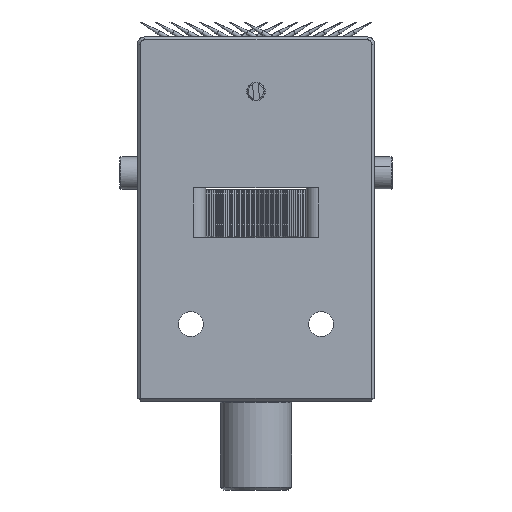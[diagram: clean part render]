
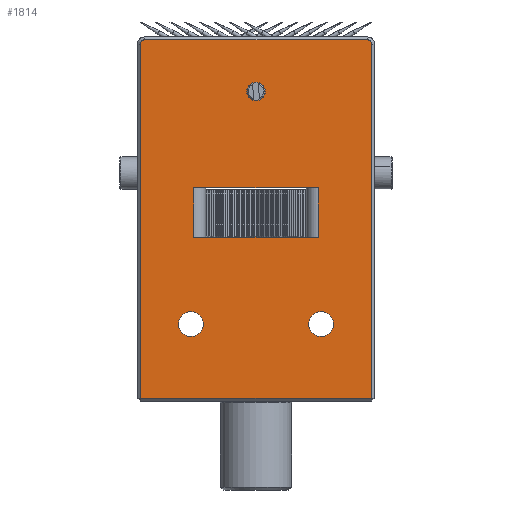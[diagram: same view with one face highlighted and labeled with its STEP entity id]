
A CAD part, front view. The second image highlights one B-rep face of the part: STEP entity #1814.
In plain terms, the highlighted planar face has unit normal (0, -1, 0).
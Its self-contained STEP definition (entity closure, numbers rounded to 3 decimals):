
#995=PLANE('',#14724);
#1210=FACE_BOUND('',#3540,.T.);
#1211=FACE_BOUND('',#3541,.T.);
#1212=FACE_BOUND('',#3542,.T.);
#1213=FACE_BOUND('',#3543,.T.);
#1214=FACE_BOUND('',#3544,.T.);
#1814=ADVANCED_FACE('',(#1210,#1211,#1212,#1213,#1214),#995,.T.);
#3540=EDGE_LOOP('',(#8626,#8627,#8628,#8629,#8630,#8631));
#3541=EDGE_LOOP('',(#8632,#8633));
#3542=EDGE_LOOP('',(#8634,#8635,#8636,#8637));
#3543=EDGE_LOOP('',(#8638,#8639));
#3544=EDGE_LOOP('',(#8640,#8641));
#5018=LINE('',#23667,#5971);
#5105=LINE('',#23949,#6058);
#5106=LINE('',#23952,#6059);
#5107=LINE('',#23956,#6060);
#5108=LINE('',#23960,#6061);
#5109=LINE('',#23962,#6062);
#5110=LINE('',#23964,#6063);
#5111=LINE('',#23966,#6064);
#5971=VECTOR('',#16623,1.);
#6058=VECTOR('',#16836,1.);
#6059=VECTOR('',#16837,1.);
#6060=VECTOR('',#16840,1.);
#6061=VECTOR('',#16843,1.);
#6062=VECTOR('',#16846,1.);
#6063=VECTOR('',#16847,1.);
#6064=VECTOR('',#16848,1.);
#8626=ORIENTED_EDGE('',*,*,#12993,.T.);
#8627=ORIENTED_EDGE('',*,*,#12994,.T.);
#8628=ORIENTED_EDGE('',*,*,#12995,.T.);
#8629=ORIENTED_EDGE('',*,*,#12996,.T.);
#8630=ORIENTED_EDGE('',*,*,#12997,.T.);
#8631=ORIENTED_EDGE('',*,*,#12998,.T.);
#8632=ORIENTED_EDGE('',*,*,#12999,.F.);
#8633=ORIENTED_EDGE('',*,*,#12927,.F.);
#8634=ORIENTED_EDGE('',*,*,#12865,.T.);
#8635=ORIENTED_EDGE('',*,*,#13000,.T.);
#8636=ORIENTED_EDGE('',*,*,#13001,.T.);
#8637=ORIENTED_EDGE('',*,*,#13002,.T.);
#8638=ORIENTED_EDGE('',*,*,#13003,.F.);
#8639=ORIENTED_EDGE('',*,*,#13004,.F.);
#8640=ORIENTED_EDGE('',*,*,#13005,.F.);
#8641=ORIENTED_EDGE('',*,*,#13006,.F.);
#11265=VERTEX_POINT('',#23668);
#11266=VERTEX_POINT('',#23669);
#11319=VERTEX_POINT('',#23812);
#11321=VERTEX_POINT('',#23816);
#11378=VERTEX_POINT('',#23950);
#11379=VERTEX_POINT('',#23951);
#11380=VERTEX_POINT('',#23953);
#11381=VERTEX_POINT('',#23955);
#11382=VERTEX_POINT('',#23957);
#11383=VERTEX_POINT('',#23959);
#11384=VERTEX_POINT('',#23963);
#11385=VERTEX_POINT('',#23965);
#11386=VERTEX_POINT('',#23968);
#11387=VERTEX_POINT('',#23969);
#11388=VERTEX_POINT('',#23972);
#11389=VERTEX_POINT('',#23973);
#12865=EDGE_CURVE('',#11265,#11266,#5018,.T.);
#12927=EDGE_CURVE('',#11321,#11319,#13922,.T.);
#12993=EDGE_CURVE('',#11378,#11379,#5105,.T.);
#12994=EDGE_CURVE('',#11379,#11380,#5106,.T.);
#12995=EDGE_CURVE('',#11380,#11381,#13942,.T.);
#12996=EDGE_CURVE('',#11381,#11382,#5107,.T.);
#12997=EDGE_CURVE('',#11382,#11383,#13943,.T.);
#12998=EDGE_CURVE('',#11383,#11378,#5108,.T.);
#12999=EDGE_CURVE('',#11319,#11321,#13944,.T.);
#13000=EDGE_CURVE('',#11266,#11384,#5109,.T.);
#13001=EDGE_CURVE('',#11384,#11385,#5110,.T.);
#13002=EDGE_CURVE('',#11385,#11265,#5111,.T.);
#13003=EDGE_CURVE('',#11386,#11387,#13945,.T.);
#13004=EDGE_CURVE('',#11387,#11386,#13946,.T.);
#13005=EDGE_CURVE('',#11388,#11389,#13947,.T.);
#13006=EDGE_CURVE('',#11389,#11388,#13948,.T.);
#13922=CIRCLE('',#14687,1.55);
#13942=CIRCLE('',#14717,0.7);
#13943=CIRCLE('',#14718,0.7);
#13944=CIRCLE('',#14719,1.55);
#13945=CIRCLE('',#14720,2.1);
#13946=CIRCLE('',#14721,2.1);
#13947=CIRCLE('',#14722,2.1);
#13948=CIRCLE('',#14723,2.1);
#14687=AXIS2_PLACEMENT_3D('',#23817,#16730,#16731);
#14717=AXIS2_PLACEMENT_3D('',#23954,#16838,#16839);
#14718=AXIS2_PLACEMENT_3D('',#23958,#16841,#16842);
#14719=AXIS2_PLACEMENT_3D('',#23961,#16844,#16845);
#14720=AXIS2_PLACEMENT_3D('',#23967,#16849,#16850);
#14721=AXIS2_PLACEMENT_3D('',#23970,#16851,#16852);
#14722=AXIS2_PLACEMENT_3D('',#23971,#16853,#16854);
#14723=AXIS2_PLACEMENT_3D('',#23974,#16855,#16856);
#14724=AXIS2_PLACEMENT_3D('',#23975,#16857,#16858);
#16623=DIRECTION('',(1.,0.,0.));
#16730=DIRECTION('',(0.,-1.,0.));
#16731=DIRECTION('',(0.,0.,1.));
#16836=DIRECTION('',(1.,0.,0.));
#16837=DIRECTION('',(0.,0.,1.));
#16838=DIRECTION('',(0.,-1.,0.));
#16839=DIRECTION('',(0.,0.,1.));
#16840=DIRECTION('',(-1.,0.,0.));
#16841=DIRECTION('',(0.,-1.,0.));
#16842=DIRECTION('',(0.,0.,1.));
#16843=DIRECTION('',(0.,0.,-1.));
#16844=DIRECTION('',(0.,-1.,0.));
#16845=DIRECTION('',(0.,0.,1.));
#16846=DIRECTION('',(0.,0.,-1.));
#16847=DIRECTION('',(-1.,0.,0.));
#16848=DIRECTION('',(0.,0.,1.));
#16849=DIRECTION('',(0.,-1.,0.));
#16850=DIRECTION('',(0.,0.,-1.));
#16851=DIRECTION('',(0.,-1.,0.));
#16852=DIRECTION('',(0.,0.,-1.));
#16853=DIRECTION('',(0.,-1.,0.));
#16854=DIRECTION('',(0.,0.,-1.));
#16855=DIRECTION('',(0.,-1.,0.));
#16856=DIRECTION('',(0.,0.,-1.));
#16857=DIRECTION('',(0.,-1.,0.));
#16858=DIRECTION('',(0.,0.,-1.));
#23667=CARTESIAN_POINT('',(-134.123,0.,33.545));
#23668=CARTESIAN_POINT('',(-164.623,0.,33.545));
#23669=CARTESIAN_POINT('',(-143.623,0.,33.545));
#23812=CARTESIAN_POINT('',(-154.123,0.,51.395));
#23816=CARTESIAN_POINT('',(-154.123,0.,48.295));
#23817=CARTESIAN_POINT('',(-154.123,0.,49.845));
#23949=CARTESIAN_POINT('',(-174.123,0.,-1.955));
#23950=CARTESIAN_POINT('',(-173.623,0.,-1.955));
#23951=CARTESIAN_POINT('',(-134.623,0.,-1.955));
#23952=CARTESIAN_POINT('',(-134.623,0.,33.545));
#23953=CARTESIAN_POINT('',(-134.623,0.,57.845));
#23954=CARTESIAN_POINT('',(-135.323,0.,57.845));
#23955=CARTESIAN_POINT('',(-135.323,0.,58.545));
#23956=CARTESIAN_POINT('',(-172.923,0.,58.545));
#23957=CARTESIAN_POINT('',(-172.923,0.,58.545));
#23958=CARTESIAN_POINT('',(-172.923,0.,57.845));
#23959=CARTESIAN_POINT('',(-173.623,0.,57.845));
#23960=CARTESIAN_POINT('',(-173.623,0.,33.545));
#23961=CARTESIAN_POINT('',(-154.123,0.,49.845));
#23962=CARTESIAN_POINT('',(-143.623,0.,25.245));
#23963=CARTESIAN_POINT('',(-143.623,0.,25.245));
#23964=CARTESIAN_POINT('',(-174.123,0.,25.245));
#23965=CARTESIAN_POINT('',(-164.623,0.,25.245));
#23966=CARTESIAN_POINT('',(-164.623,0.,33.545));
#23967=CARTESIAN_POINT('',(-165.123,0.,10.545));
#23968=CARTESIAN_POINT('',(-165.123,0.,8.445));
#23969=CARTESIAN_POINT('',(-165.123,0.,12.645));
#23970=CARTESIAN_POINT('',(-165.123,0.,10.545));
#23971=CARTESIAN_POINT('',(-143.123,0.,10.545));
#23972=CARTESIAN_POINT('',(-143.123,0.,8.445));
#23973=CARTESIAN_POINT('',(-143.123,0.,12.645));
#23974=CARTESIAN_POINT('',(-143.123,0.,10.545));
#23975=CARTESIAN_POINT('',(-134.123,0.,33.545));
